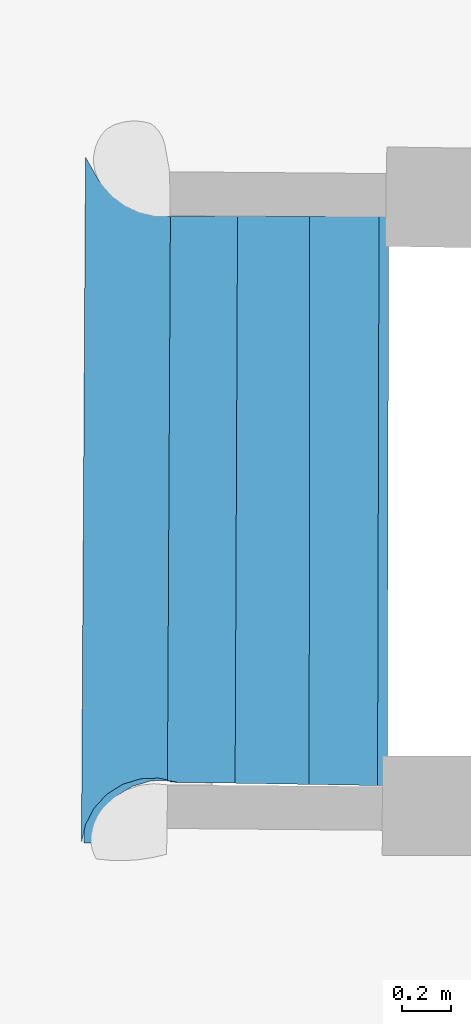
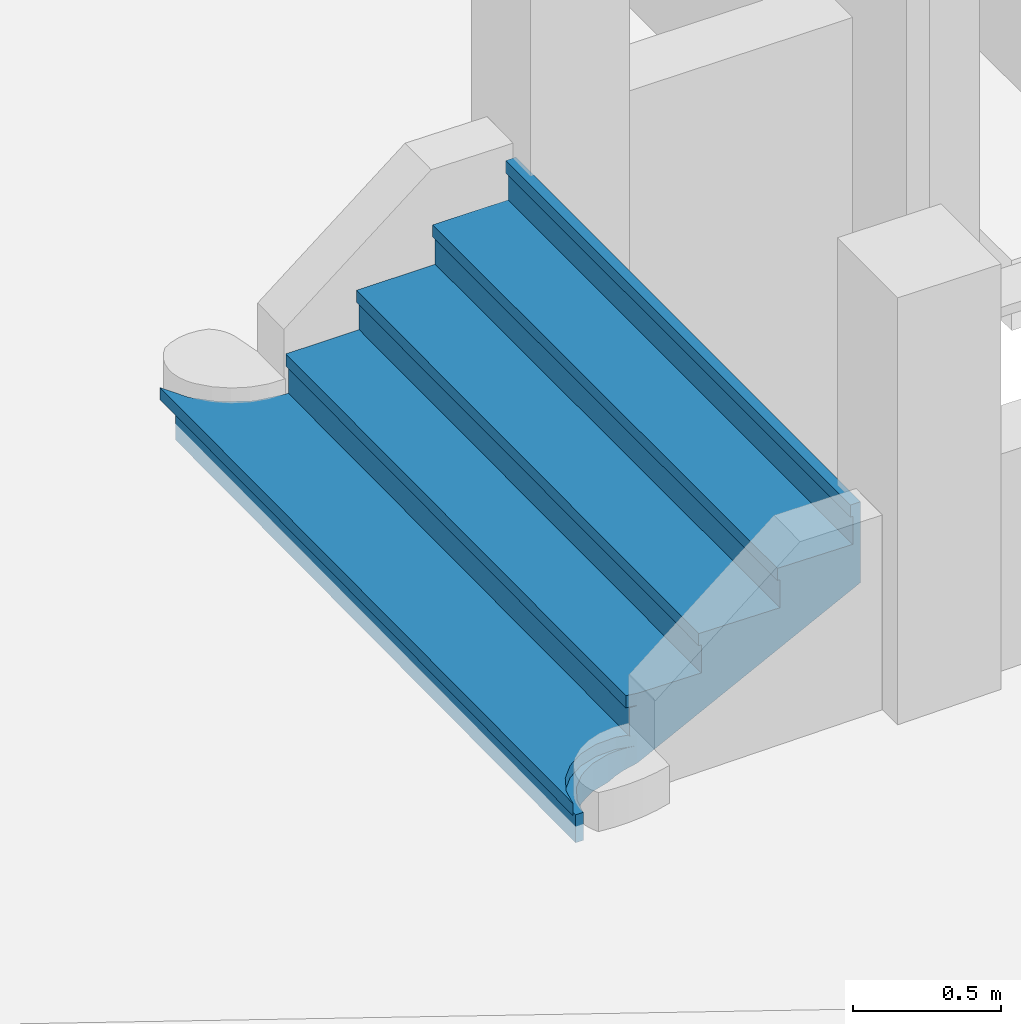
# One storey, part 113 of 133: 1 stair flight, 1 element without a shape of its own.
"""IFC2X3 building model written with IfcOpenShell, lengths in centimetres."""

from ifc_helpers import new_model, entity, si_unit, converted_unit, direction, frame, origin, origin_with_axes, place, context, subcontext, project, spatial, faceted_brep, material, element, aggregate, save


model = new_model("IFC2X3")

# Units and contexts
model_context = context("Model", 3, precision=0.0001, world=origin(), true_north=direction((0.225632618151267, 0.974212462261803, 0.0)))
body_context = subcontext(model_context, "Body", "Model", "MODEL_VIEW")
ifc_project = project(units=[si_unit("LENGTHUNIT", "METRE", prefix="CENTI"), si_unit("AREAUNIT", "SQUARE_METRE", prefix="CENTI"), si_unit("VOLUMEUNIT", "CUBIC_METRE", prefix="CENTI"), converted_unit("PLANEANGLEUNIT", "DEGREE", entity("IfcRatioMeasure", 0.0174532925), si_unit("PLANEANGLEUNIT", "RADIAN"), dimensions=[0, 0, 0, 0, 0, 0, 0])], contexts=[model_context])

# Site, building, storey
site_placement = place(None, origin_with_axes())
site = spatial("IfcSite", under=ifc_project, at=site_placement, Name="Default Site", CompositionType="ELEMENT")
building_placement = place(site_placement, origin_with_axes())
building = spatial("IfcBuilding", under=site, at=building_placement, Name="Default Building", CompositionType="ELEMENT")
storey_placement = place(building_placement, frame((0.0, 0.0, -291.400371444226), z_axis=(0.0, 0.0, 1.0), x_axis=(1.0, 0.0, 0.0)))
storey = spatial("IfcBuildingStorey", under=building, at=storey_placement, Name="Rez-de-Jardin", CompositionType="ELEMENT", Elevation=-291.400371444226)

# Stair, stair flight
stair_placement = place(storey_placement, frame((-1617.76818892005, -67.1895954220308, 102.0), z_axis=(0.0, 0.0, 1.0), x_axis=(1.0, 0.0, 0.0)))
stair = element("IfcStair", 1, at=stair_placement, inside=storey, Name="Escalier 322634", ShapeType="NOTDEFINED")
ifc_material = material(Name="Béton (01)")
stair_flight_placement = place(stair_placement, frame((0.813576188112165, 137.019023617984, 11.6000021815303), z_axis=(0.0, 0.0, 1.0), x_axis=(0.999982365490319, -0.00593874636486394, 0.0)))
stair_flight = element("IfcStairFlight", 2, at=stair_flight_placement, material=ifc_material, Name="4294967293", context=body_context, shape_type="Brep", body=[
    faceted_brep([(-2.99993083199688, 0.0, -11.6000056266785), (0.0, 0.0, -11.6000056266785), (0.000311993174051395, -274.04287139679, -11.6000056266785), (-2.99980953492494, -274.042878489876, -11.6000056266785), (0.0, 0.0, 0.0), (-2.99993083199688, 0.0, 0.0), (-2.99980953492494, -274.042878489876, 0.0), (0.000311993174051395, -274.04287139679, 0.0), (-2.99980952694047, -274.042878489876, -11.6000056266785), (-2.99993083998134, -3.53432343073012e-15, 0.0), (-2.99993083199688, 5.58486593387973e-10, -11.6000056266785), (-1.03971488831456e-19, -5.58486593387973e-10, 0.0), (4.04119461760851e-08, 4.60023578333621e-14, -11.6000056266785), (0.000311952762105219, -274.04287139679, 0.0), (0.000311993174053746, -274.042871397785, -11.6000056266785), (-2.99980953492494, -274.042878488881, 0.0)], [[[0, 1, 2]], [[2, 3, 0]], [[4, 5, 6]], [[6, 7, 4]], [[5, 0, 8]], [[3, 6, 9]], [[4, 1, 10]], [[0, 5, 11]], [[7, 2, 12]], [[1, 4, 13]], [[6, 3, 14]], [[2, 7, 15]]]),
    faceted_brep([(32.1284919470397, -15.6845866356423, 4.99999523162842), (35.1285051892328, -15.6824045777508, 4.99999523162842), (35.2979692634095, -248.85085160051, 4.99999523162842), (32.2979560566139, -248.85303961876, 4.99999523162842), (35.1285051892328, -15.6824045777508, 16.6000008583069), (32.1284919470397, -15.6845866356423, 16.6000008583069), (32.2979560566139, -248.85303961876, 16.6000008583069), (35.2979692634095, -248.85085160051, 16.6000008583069), (32.2979560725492, -248.853039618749, 4.99999523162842), (32.1284919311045, -15.6845866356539, 16.6000008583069), (32.1284919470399, -15.6845866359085, 4.99999523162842), (35.1285051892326, -15.6824045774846, 16.6000008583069), (35.128505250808, -15.682404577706, 4.99999523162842), (35.2979692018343, -248.850851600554, 16.6000008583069), (35.29796926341, -248.850851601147, 4.99999523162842), (32.2979560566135, -248.853039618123, 16.6000008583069)], [[[0, 1, 2]], [[2, 3, 0]], [[4, 5, 6]], [[6, 7, 4]], [[5, 0, 8]], [[3, 6, 9]], [[4, 1, 10]], [[0, 5, 11]], [[7, 2, 12]], [[1, 4, 13]], [[6, 3, 14]], [[2, 7, 15]]]),
    faceted_brep([(59.8167675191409, -15.499794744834, 21.5999960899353), (62.816765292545, -15.4950080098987, 21.5999960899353), (63.1892148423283, -249.151946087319, 21.5999960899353), (60.189217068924, -249.156732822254, 21.5999960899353), (62.816765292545, -15.4950080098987, 33.2000017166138), (59.8167675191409, -15.499794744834, 33.2000017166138), (60.189217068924, -249.156732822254, 33.2000017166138), (63.1892148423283, -249.151946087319, 33.2000017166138), (60.1892170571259, -249.156732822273, 21.5999960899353), (59.816767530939, -15.4997947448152, 33.2000017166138), (59.816767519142, -15.4997947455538, 21.5999960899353), (62.8167652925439, -15.495008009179, 33.2000017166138), (62.8167653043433, -15.4950080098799, 21.5999960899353), (63.18921483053, -249.151946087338, 33.2000017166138), (63.1892148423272, -249.151946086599, 21.5999960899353), (60.1892170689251, -249.156732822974, 33.2000017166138)], [[[0, 1, 2]], [[2, 3, 0]], [[4, 5, 6]], [[6, 7, 4]], [[5, 0, 8]], [[3, 6, 9]], [[4, 1, 10]], [[0, 5, 11]], [[7, 2, 12]], [[1, 4, 13]], [[6, 3, 14]], [[2, 7, 15]]]),
    faceted_brep([(89.5757517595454, -15.3081174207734, 38.1999969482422), (92.5756917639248, -15.2936033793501, 38.1999969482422), (93.708920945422, -249.467817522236, 38.1999969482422), (90.7089809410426, -249.482331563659, 38.1999969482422), (92.5756917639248, -15.2936033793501, 49.8000025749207), (89.5757517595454, -15.3081174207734, 49.8000025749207), (90.7089809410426, -249.482331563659, 49.8000025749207), (93.708920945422, -249.467817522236, 49.8000025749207), (90.7089809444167, -249.482331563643, 38.1999969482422), (89.5757517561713, -15.3081174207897, 49.8000025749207), (89.5757517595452, -15.3081174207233, 38.1999969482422), (92.575691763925, -15.2936033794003, 49.8000025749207), (92.5756917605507, -15.2936033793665, 38.1999969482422), (93.7089209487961, -249.46781752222, 49.8000025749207), (93.7089209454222, -249.467817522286, 38.1999969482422), (90.7089809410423, -249.482331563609, 49.8000025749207)], [[[0, 1, 2]], [[2, 3, 0]], [[4, 5, 6]], [[6, 7, 4]], [[5, 0, 8]], [[3, 6, 9]], [[4, 1, 10]], [[0, 5, 11]], [[7, 2, 12]], [[1, 4, 13]], [[6, 3, 14]], [[2, 7, 15]]]),
    faceted_brep([(118.1463993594, -15.1101278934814, 54.7999978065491), (121.146462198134, -15.1002385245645, 54.7999978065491), (121.919980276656, -249.759776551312, 54.7999978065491), (118.920012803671, -249.769665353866, 54.7999978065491), (121.146462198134, -15.1002385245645, 66.4000034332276), (118.1463993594, -15.1101278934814, 66.4000034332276), (118.920012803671, -249.769665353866, 66.4000034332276), (121.919980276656, -249.759776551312, 66.4000034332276), (118.920012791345, -249.769665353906, 54.7999978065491), (118.146399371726, -15.1101278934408, 66.4000034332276), (118.146399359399, -15.1101278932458, 54.7999978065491), (121.146462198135, -15.1002385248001, 66.4000034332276), (121.146462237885, -15.1002385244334, 54.7999978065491), (121.919980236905, -249.759776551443, 66.4000034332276), (121.919980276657, -249.759776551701, 54.7999978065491), (118.92001280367, -249.769665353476, 66.4000034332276)], [[[0, 1, 2]], [[2, 3, 0]], [[4, 5, 6]], [[6, 7, 4]], [[5, 0, 8]], [[3, 6, 9]], [[4, 1, 10]], [[0, 5, 11]], [[7, 2, 12]], [[1, 4, 13]], [[6, 3, 14]], [[2, 7, 15]]]),
    faceted_brep([(0.000311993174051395, -274.04287139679, -11.6000056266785), (0.000311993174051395, -274.04287139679, 0.0), (4.04119461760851e-08, 4.60023578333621e-14, 0.0), (0.0, 0.0, 0.0), (0.0, 0.0, -11.6000056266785), (0.000311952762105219, -274.04287139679, -11.6000056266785), (35.2979692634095, -248.85085160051, 0.0), (35.2979692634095, -248.85085160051, 16.6000008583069), (35.128505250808, -15.682404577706, 16.6000008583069), (35.1285051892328, -15.6824045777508, 16.6000008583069), (35.1285051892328, -15.6824045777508, 0.0), (35.2979692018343, -248.850851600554, 0.0), (63.1892148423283, -249.151946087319, 16.6000008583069), (63.1892148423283, -249.151946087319, 33.2000017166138), (62.8167653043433, -15.4950080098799, 33.2000017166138), (62.816765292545, -15.4950080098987, 33.2000017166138), (62.816765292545, -15.4950080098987, 16.6000008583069), (63.18921483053, -249.151946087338, 16.6000008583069), (93.708920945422, -249.467817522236, 33.2000017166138), (93.708920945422, -249.467817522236, 49.8000025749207), (92.5756917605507, -15.2936033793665, 49.8000025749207), (92.5756917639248, -15.2936033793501, 49.8000025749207), (92.5756917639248, -15.2936033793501, 33.2000017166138), (93.7089209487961, -249.46781752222, 33.2000017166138), (121.919980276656, -249.759776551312, 49.8000025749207), (121.146462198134, -15.1002385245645, 49.8000025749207), (121.919980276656, -249.759776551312, 37.9867672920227), (121.146462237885, -15.1002385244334, 37.9867672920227), (121.146462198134, -15.1002385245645, 37.9867672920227), (121.919980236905, -249.759776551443, 49.8000025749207), (63.1892148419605, -249.151946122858, 16.6000008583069), (35.3531698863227, -248.86386357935, -7.26692676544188), (121.919980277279, -249.759776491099, 37.9867672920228), (93.7089209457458, -249.467817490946, 33.2000017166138), (121.919980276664, -249.759776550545, 37.9867672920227), (121.919980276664, -249.759776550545, 49.8000025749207), (93.7089209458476, -249.467817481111, 33.2000017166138), (35.3531698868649, -248.863863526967, 16.6000008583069), (35.3531698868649, -248.863863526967, -7.26692676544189), (63.1892148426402, -249.151946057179, 16.6000008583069), (30.9808784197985, -15.7104759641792, -10.6356143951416), (35.1285051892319, -15.68240457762, -6.1808801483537e-18), (121.146462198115, -15.1002385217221, 37.9867672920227), (30.9808784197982, -15.7104759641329, -10.6356143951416), (30.9808784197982, -15.7104759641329, 0.0), (35.1285051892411, -15.6824045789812, 9.97225394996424e-16), (62.8167652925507, -15.4950080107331, 16.6000008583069), (35.1285051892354, -15.6824045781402, 0.0), (35.1285051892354, -15.6824045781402, 16.6000008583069), (62.8167652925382, -15.495008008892, 16.6000008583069), (92.5756917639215, -15.2936033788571, 33.2000017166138), (62.8167652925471, -15.4950080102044, 16.6000008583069), (62.8167652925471, -15.4950080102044, 33.2000017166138), (92.5756917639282, -15.2936033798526, 33.2000017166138), (92.5756917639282, -15.2936033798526, 49.8000025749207), (24.1405571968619, -248.451283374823, -11.6000056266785), (17.6285359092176, -13.8639075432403, -11.6000056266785), (28.8370578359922, -15.771631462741, -11.6000056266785), (16.9106603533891, -250.609126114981, -11.6000056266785), (7.65333307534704, -8.40821522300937, -11.6000056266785), (10.487408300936, -254.567682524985, -11.6000056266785), (1.73285458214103, -266.699400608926, -11.6000056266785), (5.30998927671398, -260.056225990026, -11.6000056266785), (30.3937609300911, -248.137135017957, -9.02966261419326), (27.2586145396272, -248.124079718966, -10.2701425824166), (27.2586145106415, -248.12407971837, -10.2701425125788), (24.1405571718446, -248.451283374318, -11.6000055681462), (35.3531698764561, -248.863863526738, -7.26692673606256), (30.39376090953, -248.137135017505, -9.0296625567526), (30.3937609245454, -248.137135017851, -9.02966260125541), (28.8370578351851, -15.7716314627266, -11.6000056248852), (121.919980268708, -249.759776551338, 37.9867673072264), (35.3531690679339, -248.863863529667, -7.26692519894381), (35.3531701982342, -248.86386352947, -7.26692734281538), (30.9808787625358, -15.7104759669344, -10.6356150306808), (1.73266356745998, -266.699354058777, 0.0), (0.000311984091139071, -274.042871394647, -11.6000056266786), (1.73285458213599, -266.699400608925, -11.6000056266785), (0.000311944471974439, -274.042871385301, -8.28401207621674e-25), (0.000311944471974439, -274.042871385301, -11.6000056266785), (5.30998863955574, -260.056118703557, 0.0), (1.73285461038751, -266.699400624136, -11.6000056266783), (5.30998927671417, -260.056225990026, -11.6000056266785), (5.30998927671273, -260.056225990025, -11.6000056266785), (10.4874084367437, -254.567682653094, -11.6000056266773), (1.73266355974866, -266.699354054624, -1.43644214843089e-13), (1.73285457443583, -266.699400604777, -11.6000056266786), (10.487216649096, -254.567528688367, 0.0), (10.4874083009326, -254.567682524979, -11.6000056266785), (16.9106602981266, -250.609126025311, -11.6000056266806), (5.30998867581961, -260.056118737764, 1.05278155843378e-12), (10.4874083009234, -254.567682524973, -11.6000056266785), (16.9104684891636, -250.608936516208, 0.0), (16.9106603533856, -250.60912611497, -11.6000056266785), (24.1405572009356, -248.451283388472, -11.6000056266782), (10.487216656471, -254.567528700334, 3.17575616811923e-13), (16.9106603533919, -250.609126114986, -11.6000056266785), (24.1405562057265, -248.45111648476, 0.0), (16.9104685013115, -250.608936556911, 5.86641396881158e-13), (24.140557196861, -248.45128337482, -11.6000056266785), (7.65333303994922, -8.40820926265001, 0.0), (17.6285358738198, -13.8639015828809, 0.0), (28.8370573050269, -15.7715420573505, 0.0), (27.8665434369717, -248.099738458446, 0.0), (29.5521025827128, -15.7660974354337, 0.0), (30.2667729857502, -15.7457059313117, 0.0), (31.6066668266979, -248.233741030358, 0.0), (35.2979691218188, -248.850827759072, 0.0), (30.9808784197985, -15.7104759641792, 0.0), (24.140557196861, -248.451283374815, -11.6000056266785), (27.2586145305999, -248.124079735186, -10.2701425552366), (27.2586145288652, -248.124079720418, -10.2701425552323), (30.3937609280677, -248.13713501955, -9.02966260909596), (24.1405562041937, -248.451116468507, 5.22078855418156e-11), (27.2586145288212, -248.124079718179, -10.270142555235), (27.8665434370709, -248.099738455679, 1.62878084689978e-11), (30.393760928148, -248.13713501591, -9.02966260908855), (31.6066668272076, -248.233741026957, -3.2084516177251e-11), (30.3937609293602, -248.137135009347, -9.02966260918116), (31.606666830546, -248.233741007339, -1.20613812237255e-11), (35.3531698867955, -248.863863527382, -7.26692676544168), (35.2979691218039, -248.850827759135, 16.6000008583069), (35.2979691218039, -248.850827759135, 0.0), (35.2979691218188, -248.850827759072, 16.6000008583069), (7.6533330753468, -8.40821522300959, -11.6000056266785), (2.24458670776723e-07, 2.04306958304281e-07, -11.6000056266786), (-3.15511429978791e-08, -2.87185296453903e-08, -11.6000056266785), (-3.15511429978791e-08, -2.87185296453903e-08, 0.0), (7.65333307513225, -8.40821522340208, -11.6000056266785), (7.65333303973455, -8.40820926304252, 2.01021992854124e-16), (28.8370578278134, -15.7716315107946, -11.6000056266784), (17.6285359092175, -13.8639075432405, -11.6000056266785), (7.65333303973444, -8.40820926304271, 2.01123013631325e-16), (28.8370578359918, -15.7716314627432, -11.6000056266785), (17.628535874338, -13.8639015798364, -2.34420184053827e-14), (30.9808784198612, -15.7104759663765, -10.6356143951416), (28.8370578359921, -15.7716314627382, -11.6000056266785), (30.9808784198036, -15.7104759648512, -10.6356143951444), (28.8370573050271, -15.7715420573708, -8.54673035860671e-14), (30.9808784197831, -15.7104759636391, -10.6356143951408), (29.5521025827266, -15.7660974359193, -6.78275006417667e-13), (30.2667729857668, -15.7457059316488, 0.0)], [[[0, 1, 2]], [[3, 4, 5]], [[6, 7, 8]], [[9, 10, 11]], [[12, 13, 14]], [[15, 16, 17]], [[18, 19, 20]], [[21, 22, 23]], [[13, 18, 22]], [[22, 15, 13]], [[19, 24, 25]], [[25, 21, 19]], [[24, 26, 27]], [[28, 25, 29]], [[26, 30, 31]], [[12, 32, 33]], [[18, 34, 19]], [[19, 34, 35]], [[13, 12, 36]], [[37, 38, 39]], [[40, 41, 42]], [[10, 43, 44]], [[28, 45, 46]], [[16, 47, 48]], [[28, 49, 50]], [[22, 51, 52]], [[28, 53, 54]], [[28, 54, 25]], [[55, 56, 57]], [[58, 59, 56]], [[58, 56, 55]], [[60, 59, 58]], [[0, 4, 61]], [[61, 4, 62]], [[62, 4, 60]], [[60, 4, 59]], [[57, 63, 64]], [[57, 65, 66]], [[40, 67, 68]], [[40, 69, 70]], [[28, 71, 72]], [[28, 73, 74]], [[75, 76, 77]], [[75, 78, 79]], [[80, 81, 82]], [[80, 83, 84]], [[80, 85, 86]], [[87, 88, 89]], [[87, 90, 91]], [[92, 93, 94]], [[92, 95, 96]], [[97, 98, 99]], [[100, 87, 92]], [[100, 80, 87]], [[3, 80, 100]], [[101, 92, 97]], [[101, 100, 92]], [[102, 97, 103]], [[102, 101, 97]], [[104, 102, 103]], [[105, 103, 106]], [[105, 104, 103]], [[10, 106, 107]], [[10, 108, 105]], [[10, 105, 106]], [[3, 1, 75]], [[3, 75, 80]], [[97, 109, 110]], [[103, 111, 112]], [[103, 113, 114]], [[106, 115, 116]], [[38, 117, 118]], [[107, 119, 120]], [[37, 121, 122]], [[37, 122, 38]], [[12, 123, 37]], [[16, 9, 123]], [[16, 123, 12]], [[100, 124, 125]], [[100, 126, 127]], [[56, 128, 129]], [[101, 130, 56]], [[101, 131, 132]], [[102, 133, 134]], [[102, 135, 136]], [[104, 137, 138]], [[105, 139, 140]], [[108, 40, 141]]]),
    faceted_brep([(-3.99965931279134, -274.042879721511, 0.0), (-3.99965931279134, -274.042879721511, 4.99999523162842), (-3.99994910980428, 8.63574251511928, 4.99999523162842), (-3.99994916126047, 8.63574251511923, 4.99999523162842), (-3.99994916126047, 8.63574251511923, 0.0), (-3.99965936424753, -274.042879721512, 0.0), (35.1285051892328, -15.6824045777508, 0.0), (35.1285051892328, -15.6824045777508, 4.99999523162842), (35.2980220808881, -248.843686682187, 4.99999523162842), (35.2980220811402, -248.843686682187, 4.99999523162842), (35.2980220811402, -248.843686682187, 0.0), (35.1285051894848, -15.6824045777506, 0.0), (30.9808784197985, -15.7104759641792, 0.0), (30.9808784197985, -15.7104759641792, 4.99999523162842), (35.1285051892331, -15.6824045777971, 4.99999523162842), (30.9808784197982, -15.7104759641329, 0.0), (27.7913666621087, -247.180039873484, 0.0), (20.1102789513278, -247.523339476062, 0.0), (19.8867849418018, -13.8324296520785, 0.0), (12.7820102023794, -249.850021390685, 0.0), (9.81076608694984, -8.82454567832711, 0.0), (6.3095422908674, -254.00037126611, 0.0), (1.61473752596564, -1.11528900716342, 0.0), (1.1373197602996, -259.689457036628, 0.0), (-2.37953321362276, -266.526755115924, 0.0), (-2.37953321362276, -266.526755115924, 4.99999523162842), (-3.99965934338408, -274.042879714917, 0.0), (-3.99965934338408, -274.042879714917, 4.99999523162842), (1.1373197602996, -259.689457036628, 4.99999523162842), (-2.3795331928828, -266.526755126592, 0.0), (-2.3795331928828, -266.526755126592, 4.99999523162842), (-2.3795331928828, -266.526755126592, -2.37482379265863e-24), (6.3095422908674, -254.00037126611, 4.99999523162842), (1.13731984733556, -259.689457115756, 0.0), (1.13731984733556, -259.689457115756, 4.99999523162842), (1.13731984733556, -259.689457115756, 1.19775627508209e-23), (12.7820102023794, -249.850021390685, 4.99999523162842), (6.30954228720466, -254.000371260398, 0.0), (6.30954228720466, -254.000371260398, 4.99999523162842), (6.30954228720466, -254.000371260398, 6.90936014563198e-25), (20.1102789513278, -247.523339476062, 4.99999523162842), (12.7820101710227, -249.850021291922, 0.0), (12.7820101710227, -249.850021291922, 4.99999523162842), (12.7820101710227, -249.850021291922, -5.27560021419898e-24), (27.7913666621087, -247.180039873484, 4.99999523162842), (20.1102789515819, -247.523339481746, 0.0), (20.1102789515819, -247.523339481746, 4.99999523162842), (27.791366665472, -247.180039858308, 0.0), (27.791366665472, -247.180039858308, 4.99999523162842), (1.61473752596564, -1.11528900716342, 4.99999523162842), (9.81076608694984, -8.82454567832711, 4.99999523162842), (19.8867849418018, -13.8324296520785, 4.99999523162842), (30.9808784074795, -15.7104760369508, 0.0), (30.9808784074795, -15.7104760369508, 4.99999523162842), (19.8867849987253, -13.8324295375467, 0.0), (19.8867849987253, -13.8324295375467, 4.99999523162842), (9.81076613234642, -8.82454563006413, 0.0), (9.81076613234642, -8.82454563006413, 4.99999523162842), (9.81076613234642, -8.82454563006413, 9.05756268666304e-24), (1.6147375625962, -1.11528898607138, 0.0), (1.6147375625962, -1.11528898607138, 4.99999523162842), (1.6147375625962, -1.11528898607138, 5.77820740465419e-24)], [[[0, 1, 2]], [[3, 4, 5]], [[6, 7, 8]], [[9, 10, 11]], [[12, 13, 14]], [[7, 6, 15]], [[6, 10, 16]], [[12, 16, 17]], [[12, 6, 16]], [[18, 17, 19]], [[18, 12, 17]], [[20, 19, 21]], [[20, 18, 19]], [[22, 21, 23]], [[22, 20, 21]], [[0, 4, 24]], [[24, 4, 23]], [[23, 4, 22]], [[25, 26, 24]], [[25, 27, 26]], [[28, 29, 23]], [[28, 30, 31]], [[32, 33, 21]], [[32, 34, 35]], [[36, 37, 19]], [[36, 38, 39]], [[40, 41, 17]], [[40, 42, 43]], [[44, 45, 16]], [[44, 46, 45]], [[9, 47, 10]], [[9, 48, 47]], [[49, 28, 32]], [[50, 32, 36]], [[50, 49, 32]], [[51, 36, 40]], [[51, 50, 36]], [[13, 40, 44]], [[13, 51, 40]], [[7, 44, 9]], [[7, 13, 44]], [[3, 1, 25]], [[3, 25, 28]], [[3, 28, 49]], [[51, 52, 18]], [[51, 53, 52]], [[50, 54, 20]], [[50, 55, 54]], [[49, 56, 22]], [[49, 57, 58]], [[3, 59, 4]], [[3, 60, 61]]]),
    faceted_brep([(31.2974963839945, -248.204355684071, 16.6000008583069), (31.2974963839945, -248.204355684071, 21.5999960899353), (31.1285038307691, -15.7094740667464, 21.5999960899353), (31.1285038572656, -15.7094740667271, 21.5999960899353), (31.1285038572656, -15.7094740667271, 16.6000008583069), (31.2974964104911, -248.204355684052, 16.6000008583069), (63.1892148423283, -249.151946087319, 16.6000008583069), (63.1892148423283, -249.151946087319, 21.5999960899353), (35.3531698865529, -248.863863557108, 21.5999960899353), (35.3531698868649, -248.863863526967, 21.5999960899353), (35.3531698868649, -248.863863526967, 16.6000008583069), (63.1892148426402, -249.151946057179, 16.6000008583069), (62.816765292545, -15.4950080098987, 16.6000008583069), (62.816765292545, -15.4950080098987, 21.5999960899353), (63.18921483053, -249.151946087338, 21.5999960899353), (62.8167653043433, -15.4950080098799, 16.6000008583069), (62.8167652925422, -15.495008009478, 21.5999960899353), (31.1285038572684, -15.7094740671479, 16.6000008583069), (34.012214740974, -248.579854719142, 16.6000008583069), (32.6593370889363, -248.359849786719, 16.6000008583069), (32.6593370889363, -248.359849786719, 21.5999960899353), (31.2974963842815, -248.204355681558, 16.6000008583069), (31.2974963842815, -248.204355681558, 21.5999960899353), (34.012214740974, -248.579854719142, 21.5999960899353), (32.6593370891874, -248.359849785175, 16.6000008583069), (32.6593370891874, -248.359849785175, 21.5999960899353), (34.0122147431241, -248.57985470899, 16.6000008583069), (34.0122147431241, -248.57985470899, 21.5999960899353)], [[[0, 1, 2]], [[3, 4, 5]], [[6, 7, 8]], [[9, 10, 11]], [[12, 13, 14]], [[7, 6, 15]], [[4, 3, 16]], [[13, 12, 17]], [[18, 6, 10]], [[19, 6, 18]], [[12, 6, 19]], [[4, 19, 0]], [[4, 12, 19]], [[20, 21, 19]], [[20, 22, 21]], [[23, 24, 18]], [[23, 25, 24]], [[9, 26, 10]], [[9, 27, 26]], [[7, 20, 23]], [[7, 23, 9]], [[3, 1, 20]], [[13, 3, 20]], [[13, 20, 7]]]),
    faceted_brep([(59.1891883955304, -249.110552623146, 38.1999969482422), (93.708920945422, -249.467817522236, 38.1999969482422), (92.5756917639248, -15.2936033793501, 38.1999969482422), (58.8167639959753, -15.5220834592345, 38.1999969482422), (92.5756917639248, -15.2936033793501, 33.2000017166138), (93.708920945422, -249.467817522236, 33.2000017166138), (59.1891883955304, -249.110552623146, 33.2000017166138), (58.8167639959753, -15.5220834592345, 33.2000017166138), (58.8167640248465, -15.5220834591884, 38.1999969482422), (59.1891883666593, -249.110552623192, 33.2000017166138), (59.1891883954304, -249.110552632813, 38.1999969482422), (93.708920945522, -249.46781751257, 33.2000017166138), (93.7089209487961, -249.46781752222, 38.1999969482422), (92.5756917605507, -15.2936033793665, 33.2000017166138), (92.5756917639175, -15.2936033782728, 38.1999969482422), (58.8167639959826, -15.5220834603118, 33.2000017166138)], [[[0, 1, 2]], [[2, 3, 0]], [[4, 5, 6]], [[6, 7, 4]], [[6, 0, 8]], [[3, 7, 9]], [[5, 1, 10]], [[0, 6, 11]], [[4, 2, 12]], [[1, 5, 13]], [[7, 3, 14]], [[2, 4, 15]]]),
    faceted_brep([(89.708703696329, -249.426413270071, 54.7999978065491), (121.919980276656, -249.759776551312, 54.7999978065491), (121.146462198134, -15.1002385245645, 54.7999978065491), (88.5757399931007, -15.3129595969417, 54.7999978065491), (121.146462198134, -15.1002385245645, 49.8000025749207), (121.919980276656, -249.759776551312, 49.8000025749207), (89.708703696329, -249.426413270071, 49.8000025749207), (88.5757399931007, -15.3129595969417, 49.8000025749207), (88.5757399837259, -15.3129595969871, 54.7999978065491), (89.7087037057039, -249.426413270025, 49.8000025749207), (89.708703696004, -249.426413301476, 54.7999978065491), (121.919980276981, -249.759776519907, 49.8000025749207), (121.919980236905, -249.759776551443, 54.7999978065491), (121.146462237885, -15.1002385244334, 49.8000025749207), (121.146462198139, -15.1002385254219, 54.7999978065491), (88.5757399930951, -15.3129595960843, 49.8000025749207)], [[[0, 1, 2]], [[2, 3, 0]], [[4, 5, 6]], [[6, 7, 4]], [[6, 0, 8]], [[3, 7, 9]], [[5, 1, 10]], [[0, 6, 11]], [[4, 2, 12]], [[1, 5, 13]], [[7, 3, 14]], [[2, 4, 15]]]),
    faceted_brep([(117.920087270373, -249.772969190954, 71.399998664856), (121.919980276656, -249.759776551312, 71.399998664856), (121.146462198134, -15.1002385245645, 71.399998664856), (117.146473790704, -15.1134257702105, 71.399998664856), (121.919980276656, -249.759776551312, 66.4000034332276), (117.920087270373, -249.772969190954, 66.4000034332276), (117.146473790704, -15.1134257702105, 66.4000034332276), (121.146462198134, -15.1002385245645, 66.4000034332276), (117.146473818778, -15.113425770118, 71.399998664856), (117.9200872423, -249.772969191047, 66.4000034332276), (117.920087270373, -249.772969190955, 71.399998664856), (121.919980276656, -249.759776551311, 66.4000034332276), (121.919980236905, -249.759776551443, 71.399998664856), (121.146462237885, -15.1002385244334, 66.4000034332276), (121.146462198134, -15.1002385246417, 71.399998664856), (117.146473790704, -15.1134257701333, 66.4000034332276)], [[[0, 1, 2]], [[2, 3, 0]], [[4, 5, 6]], [[6, 7, 4]], [[5, 0, 8]], [[3, 6, 9]], [[4, 1, 10]], [[0, 5, 11]], [[7, 2, 12]], [[1, 4, 13]], [[6, 3, 14]], [[2, 7, 15]]]),
])
aggregate(stair, [stair_flight])

save(model, "model.ifc")
